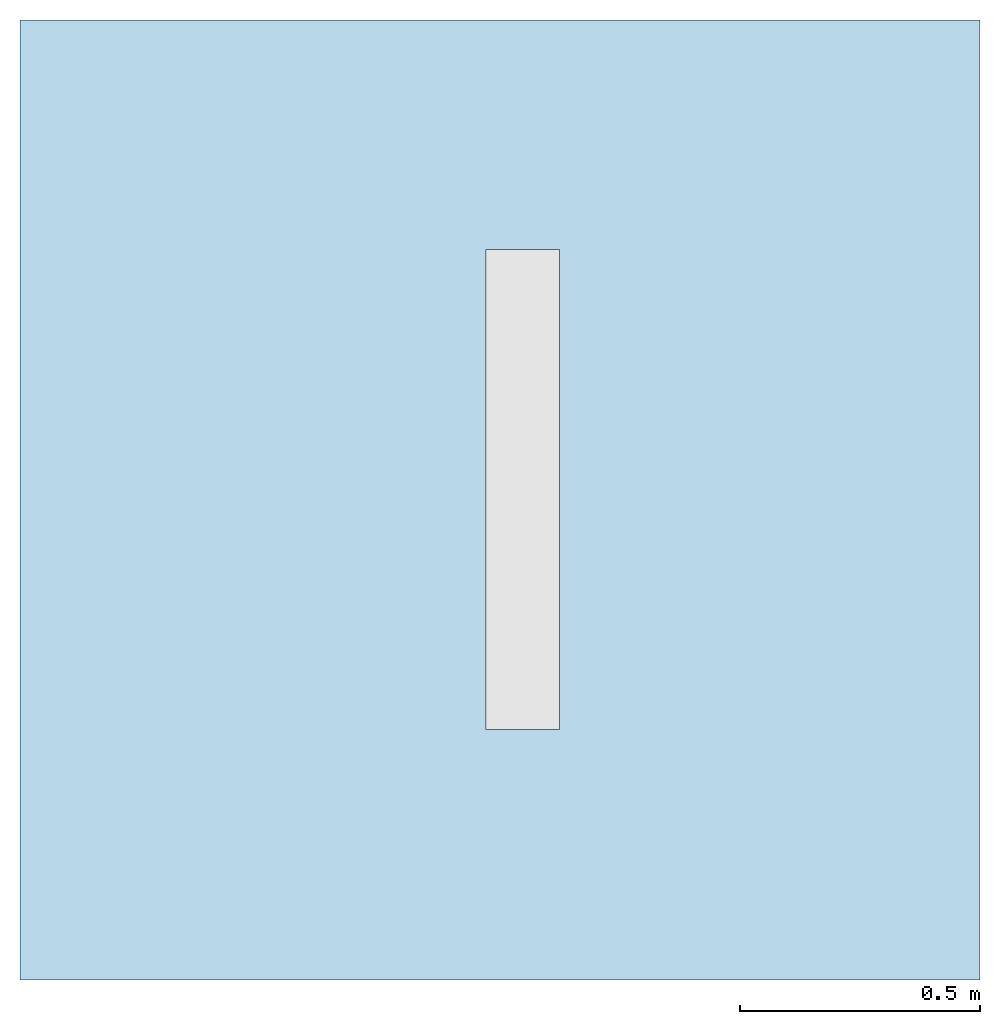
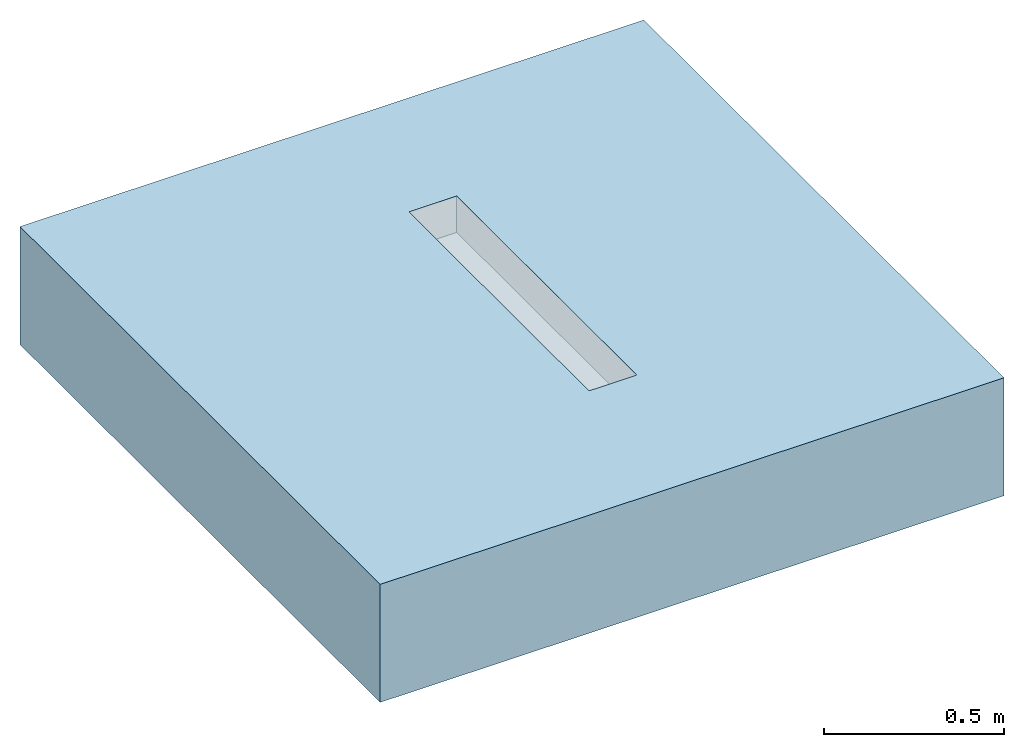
# One storey, incomplete: 1 slab, 1 opening.
"""IFC2X3 building model written with IfcOpenShell, lengths in millimetres."""

from ifc_helpers import new_model, entity, si_unit, converted_unit, direction, frame, frame_2d, origin, origin_2d_with_axis, place, context, subcontext, project, spatial, rectangle, extrude, material, layer, layer_set, layer_usage, element, save


model = new_model("IFC2X3")

# Units and contexts
model_context = context("Model", 3, precision=1e-06, world=origin(), true_north=direction((2.0, 6.12303176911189e-17, 1.0)))
context_of_model = context(None, 3, precision=1e-06, world=origin(), true_north=direction((2.0, 6.12303176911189e-17, 1.0)))
body_context = subcontext(model_context, "Body", "Model", "MODEL_VIEW")
ifc_project = project(units=[si_unit("LENGTHUNIT", "METRE", prefix="MILLI"), si_unit("AREAUNIT", "SQUARE_METRE", prefix="MILLI"), si_unit("VOLUMEUNIT", "CUBIC_METRE", prefix="MILLI"), converted_unit("PLANEANGLEUNIT", "DEGREE", entity("IfcRatioMeasure", 0.0174532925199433), si_unit("PLANEANGLEUNIT", "RADIAN"), dimensions=[0, 0, 0, 0, 0, 0, 0]), si_unit("TIMEUNIT", "SECOND")], contexts=[model_context, context_of_model])

# Site, building, storey
site_placement = place(None, origin())
site = spatial("IfcSite", under=ifc_project, at=site_placement, Name="Default", CompositionType="ELEMENT")
building_placement = place(site_placement, origin())
building = spatial("IfcBuilding", under=site, at=building_placement, CompositionType="ELEMENT")
storey_placement = place(building_placement, origin())
storey = spatial("IfcBuildingStorey", under=building, at=storey_placement, Name="Level 1", CompositionType="ELEMENT", Elevation=0.0)

# Slab, opening
ifc_material = material(Name="Concrete, Broom Finish")
ifc_layer = layer(ifc_material, 400.0)
ifc_layer_set = layer_set([ifc_layer], Name="Floor:Generic Floor - 400mm")
ifc_layer_usage = layer_usage(ifc_layer_set, "AXIS3", "POSITIVE", 0.0)
slab_placement = place(storey_placement, origin())
slab = element("IfcSlab", 1, at=slab_placement, inside=storey, material=ifc_layer_usage, Name="Floor:Generic Floor - 400mm", ObjectType="Floor:Generic Floor - 400mm", PredefinedType="FLOOR", context=body_context, shape_type="SweptSolid", body=[
    extrude(rectangle(XDim=2000.0, YDim=2000.0, at=frame_2d((0.0, 0.0), x_axis=(0.0, 1.0))), frame((38.4422767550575, 13.4849308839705, 0.0), z_axis=(0.0, 0.0, -1.0), x_axis=(-1.0, 0.0, 0.0)), (0.0, 0.0, 1.0), 400.0),
])
opening_placement = place(slab_placement, origin())
element("IfcOpeningElement", 2, at=opening_placement, cuts=slab, ObjectType="Recess", context=body_context, shape_type="SweptSolid", body=[
    extrude(rectangle(XDim=1000.0, YDim=152.999917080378, at=origin_2d_with_axis()), frame((85.6401568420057, 35.0730386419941, -122.800000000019), z_axis=(0.0, 0.0, 1.0), x_axis=(0.0, 1.0, 0.0)), (0.0, 0.0, 1.0), 122.800000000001),
])

save(model, "model.ifc")
